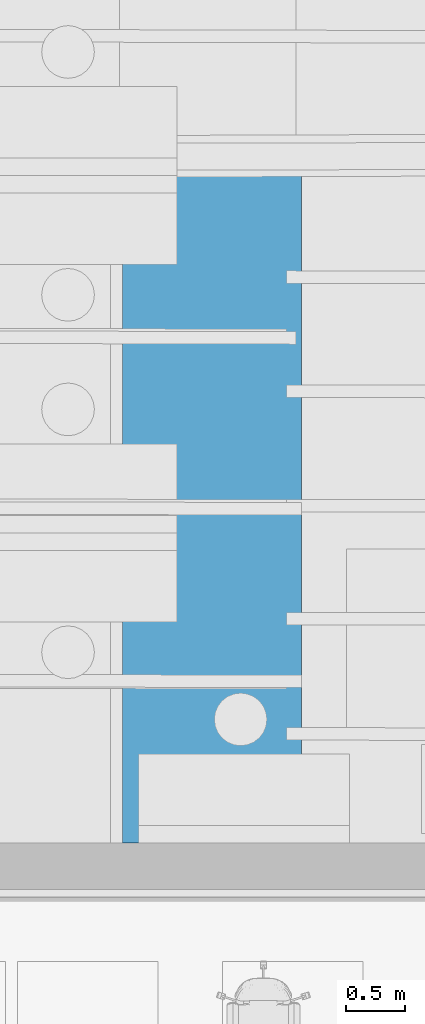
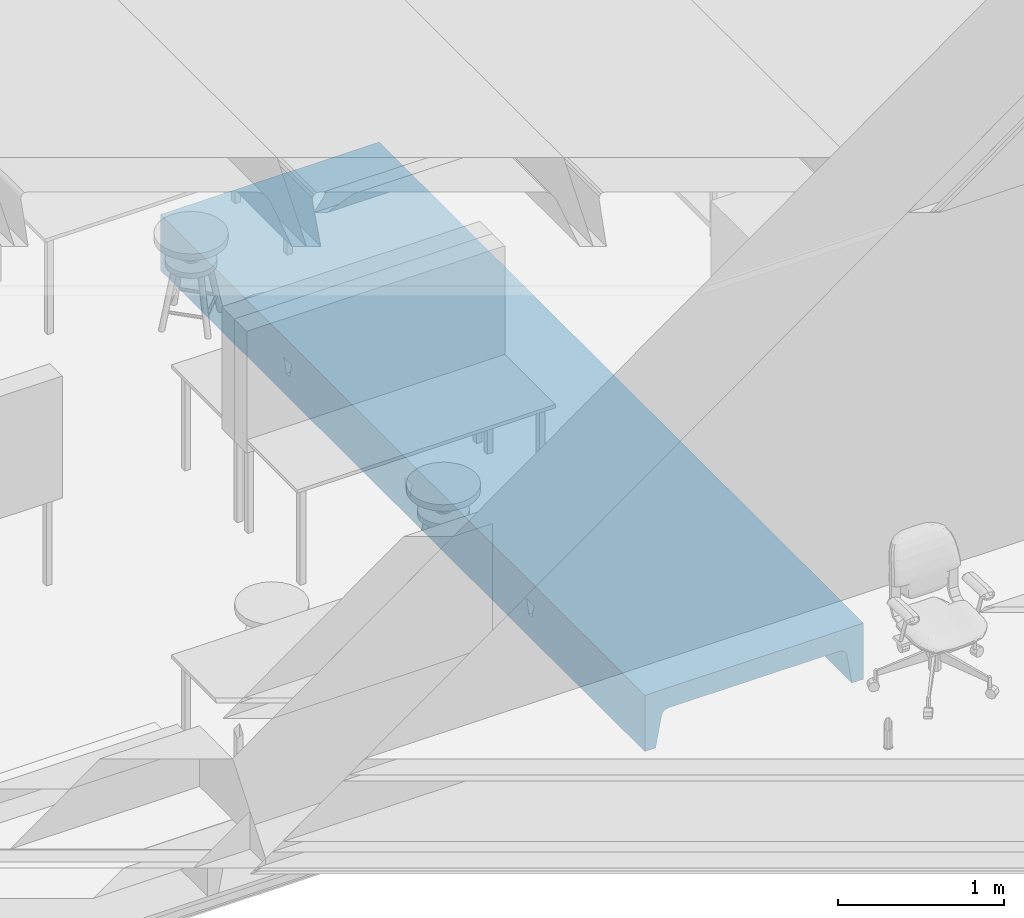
# One storey, part 18 of 153: 1 beam.
"""IFC2X3 building model written with IfcOpenShell, lengths in millimetres."""

import ifcopenshell
import ifcopenshell.guid

model = None  # the IFC model being written
_history = None  # IfcOwnerHistory: only IFC2X3 demands one
_inside = {}  # id of a spatial element -> (the spatial element, [elements in it])
_under = {}  # id of a project, library or spatial element -> (it, [spatial elements below it])
_declared = {}  # id of a project -> (the project, [libraries it declares])
_typed = {}  # id of a type object -> (the type object, [elements of that type])
_made_of = {}  # id of a material, layer set ... -> (it, [elements and type objects made of it])


def new_model(schema):
    """Start an empty IFC model of exactly this schema.

    Asked for "IFC4X3", IfcOpenShell would pick the latest addendum, in which some entities
    have other attributes; the version numbers below select the first issue.
    IFC2X3 requires an IfcOwnerHistory on every rooted entity: one is made here for all.
    """
    global model, _history
    if schema == "IFC4X3":
        model = ifcopenshell.file(schema_version=(4, 3, 0, 0))
    else:
        model = ifcopenshell.file(schema=schema)
    _inside.clear()
    _under.clear()
    _declared.clear()
    _typed.clear()
    _made_of.clear()
    _history = None
    if model.schema == "IFC2X3":
        org = make("IfcOrganization", Name="unknown")
        user = make(
            "IfcPersonAndOrganization",
            ThePerson=make("IfcPerson", FamilyName="unknown"),
            TheOrganization=org,
        )
        app = make(
            "IfcApplication",
            ApplicationDeveloper=org,
            Version="unknown",
            ApplicationFullName="unknown",
            ApplicationIdentifier="unknown",
        )
        _history = make(
            "IfcOwnerHistory",
            OwningUser=user,
            OwningApplication=app,
            ChangeAction="ADDED",
            CreationDate=0,
        )
    return model


def make(cls, **values):
    """One entity of the class cls with the attributes given. An attribute that is None is left unset."""
    return model.create_entity(
        cls, **{name: value for name, value in values.items() if value is not None}
    )


def entity(cls, *values):
    """Any entity or typed value of the class cls, its attributes in the order of the schema. None: left unset."""
    e = model.create_entity(cls)
    for i, value in enumerate(values):
        if value is not None:
            e[i] = value
    return e


def rooted(cls, **values):
    """An entity with a GlobalId (a new one), such as an element, a storey or a relation."""
    return make(cls, GlobalId=ifcopenshell.guid.new(), OwnerHistory=_history, **values)


def si_unit(unit_type, name, prefix=None):
    """IfcSIUnit, for example si_unit("LENGTHUNIT", "METRE", prefix="MILLI")."""
    return make("IfcSIUnit", UnitType=unit_type, Prefix=prefix, Name=name)


def converted_unit(unit_type, name, factor, base, dimensions=None, offset=None):
    """IfcConversionBasedUnit, such as the inch: factor (a typed value) times the base unit."""
    return make(
        "IfcConversionBasedUnit"
        if offset is None
        else "IfcConversionBasedUnitWithOffset",
        ConversionOffset=offset,
        Dimensions=None
        if dimensions is None
        else entity("IfcDimensionalExponents", *dimensions),
        UnitType=unit_type,
        Name=name,
        ConversionFactor=make(
            "IfcMeasureWithUnit", ValueComponent=factor, UnitComponent=base
        ),
    )


def derived_unit(unit_type, elements):
    """IfcDerivedUnit: a product of units, each with its exponent."""
    return make(
        "IfcDerivedUnit",
        Elements=[
            make("IfcDerivedUnitElement", Unit=unit, Exponent=power)
            for unit, power in elements
        ],
        UnitType=unit_type,
    )


def money_unit(currency):
    """IfcMonetaryUnit."""
    return make("IfcMonetaryUnit", Currency=currency)


def assignment(units):
    """IfcUnitAssignment: the units of a project."""
    return None if units is None else make("IfcUnitAssignment", Units=units)


def point(xyz):
    """IfcCartesianPoint."""
    return None if xyz is None else make("IfcCartesianPoint", Coordinates=xyz)


def direction(xyz):
    """IfcDirection."""
    return None if xyz is None else make("IfcDirection", DirectionRatios=xyz)


def frame(location, z_axis=None, x_axis=None):
    """IfcAxis2Placement3D, a coordinate frame: its origin and axes. An axis left out is left unset."""
    return make(
        "IfcAxis2Placement3D",
        Location=point(location),
        Axis=direction(z_axis),
        RefDirection=direction(x_axis),
    )


def origin_with_axes():
    """The frame at (0, 0, 0) with the z axis (0, 0, 1) and the x axis (1, 0, 0) written out."""
    return frame((0.0, 0.0, 0.0), z_axis=(0.0, 0.0, 1.0), x_axis=(1.0, 0.0, 0.0))


def place(relative_to, where):
    """IfcLocalPlacement: puts the frame where relative to a parent placement (None: the world)."""
    return make(
        "IfcLocalPlacement", PlacementRelTo=relative_to, RelativePlacement=where
    )


def context(
    kind, dimensions, precision=None, world=None, true_north=None, identifier=None
):
    """IfcGeometricRepresentationContext, for example the 3D "Model" context."""
    return make(
        "IfcGeometricRepresentationContext",
        ContextIdentifier=identifier,
        ContextType=kind,
        CoordinateSpaceDimension=dimensions,
        Precision=precision,
        WorldCoordinateSystem=world,
        TrueNorth=true_north,
    )


def subcontext(parent, identifier, kind, view, scale=None):
    """IfcGeometricRepresentationSubContext, for example "Body" below "Model"."""
    return make(
        "IfcGeometricRepresentationSubContext",
        ContextIdentifier=identifier,
        ContextType=kind,
        ParentContext=parent,
        TargetScale=scale,
        TargetView=view,
    )


def project(units=None, contexts=None):
    """IfcProject with its units and contexts."""
    return rooted(
        "IfcProject",
        Name="project",
        RepresentationContexts=contexts,
        UnitsInContext=assignment(units),
    )


def spatial(cls, under=None, at=None, **own):
    """A site, building, storey or space (cls), placed at a placement, below another one or the project."""
    s = rooted(cls, ObjectPlacement=at, **own)
    if under is not None:
        _under.setdefault(under.id(), (under, []))[1].append(s)
    return s


def faces_of(points, faces, orient=None, outer=None):
    """IfcFace entities. A face is a list of loops; a loop is a list of indices into points, from 0.

    orient and outer hold one flag for each loop. By default every Orientation is true, the
    first loop of a face is its IfcFaceOuterBound and the others are IfcFaceBound.
    """
    made = []
    for i, loops in enumerate(faces):
        bounds = []
        for j, loop in enumerate(loops):
            is_outer = j == 0 if outer is None else outer[i][j]
            bounds.append(
                make(
                    "IfcFaceOuterBound" if is_outer else "IfcFaceBound",
                    Bound=make("IfcPolyLoop", Polygon=[points[k] for k in loop]),
                    Orientation=True if orient is None else orient[i][j],
                )
            )
        made.append(make("IfcFace", Bounds=bounds))
    return made


def faceted_brep(points, faces, orient=None, outer=None, voids=None):
    """IfcFacetedBrep: a solid bounded by flat faces; with voids (closed shells), ...WithVoids."""
    shared = [point(p) for p in points]
    hull = make("IfcClosedShell", CfsFaces=faces_of(shared, faces, orient, outer))
    if voids is None:
        return make("IfcFacetedBrep", Outer=hull)
    return make(
        "IfcFacetedBrepWithVoids",
        Outer=hull,
        Voids=[
            make(cls, CfsFaces=faces_of(shared, fs, o, b)) for cls, fs, o, b in voids
        ],
    )


def shape(context_of_items, identifier, shape_type, items):
    """IfcShapeRepresentation: the items that make up one representation, for example the "Body"."""
    return make(
        "IfcShapeRepresentation",
        ContextOfItems=context_of_items,
        RepresentationIdentifier=identifier,
        RepresentationType=shape_type,
        Items=items,
    )


def material(Name=None, Category=None):
    """IfcMaterial."""
    return make("IfcMaterial", Name=Name, Category=Category)


def made_of(thing, what):
    """Note that an element or type object is made of a material, layer set ...; save() writes the relation."""
    if what is not None:
        _made_of.setdefault(what.id(), (what, []))[1].append(thing)
    return thing


def type_object(cls, material=None, **own):
    """A type object (cls), such as IfcWallType, which elements share."""
    return made_of(rooted(cls, **own), material)


def element(
    cls,
    number,
    at=None,
    inside=None,
    cuts=None,
    type_object=None,
    material=None,
    context=None,
    identifier="Body",
    shape_type=None,
    held_by="IfcProductDefinitionShape",
    body=None,
    shapes=None,
    **own,
):
    """One element of the class cls, such as IfcWall. Its Tag is "e" and its number.

    at: its placement. inside: the storey or other place that contains it. cuts: it is an
    opening in that element (IfcRelVoidsElement). A single representation is given by context,
    identifier, shape_type and body (its items); several are given by shapes. held_by: the class
    of the entity that holds the representations. save() writes the other relations.
    """
    e = rooted(cls, Tag="e%d" % number, ObjectPlacement=at, **own)
    if body is not None:
        shapes = [shape(context, identifier, shape_type, body)]
    if shapes is not None:
        e.Representation = make(held_by, Representations=shapes)
    if inside is not None:
        _inside.setdefault(inside.id(), (inside, []))[1].append(e)
    if cuts is not None:
        rooted(
            "IfcRelVoidsElement", RelatingBuildingElement=cuts, RelatedOpeningElement=e
        )
    if type_object is not None:
        _typed.setdefault(type_object.id(), (type_object, []))[1].append(e)
    return made_of(e, material)


def aggregate(whole, parts):
    """IfcRelAggregates: a whole, such as a stair, and the parts it consists of."""
    return rooted("IfcRelAggregates", RelatingObject=whole, RelatedObjects=parts)


def save(model, path):
    """Write the relations noted so far, then the file.

    IfcRelAggregates (storeys below a building ...), IfcRelContainedInSpatialStructure (elements
    in a storey), IfcRelDefinesByType, IfcRelAssociatesMaterial and IfcRelDeclares: one each for
    every whole, place, type object, material and project.
    """
    for whole, parts in _under.values():
        aggregate(whole, parts)
    for where, things in _inside.values():
        rooted(
            "IfcRelContainedInSpatialStructure",
            RelatedElements=things,
            RelatingStructure=where,
        )
    for kind, things in _typed.values():
        rooted("IfcRelDefinesByType", RelatedObjects=things, RelatingType=kind)
    for what, things in _made_of.values():
        rooted("IfcRelAssociatesMaterial", RelatedObjects=things, RelatingMaterial=what)
    for by, libraries in _declared.values():
        rooted("IfcRelDeclares", RelatingContext=by, RelatedDefinitions=libraries)
    model.write(path)


model = new_model("IFC2X3")

# Units and contexts
model_context = context("Model", 3, precision=0.01, world=origin_with_axes(), true_north=direction((0.0, 1.0)))
body_context = subcontext(model_context, "Body", "Model", "MODEL_VIEW")
ifc_project = project(units=[si_unit("LENGTHUNIT", "METRE", prefix="MILLI"), si_unit("AREAUNIT", "SQUARE_METRE"), si_unit("VOLUMEUNIT", "CUBIC_METRE"), converted_unit("PLANEANGLEUNIT", "DEGREE", entity("IfcPlaneAngleMeasure", 0.0174532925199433), si_unit("PLANEANGLEUNIT", "RADIAN"), dimensions=[0, 0, 0, 0, 0, 0, 0]), money_unit("EUR"), converted_unit("TIMEUNIT", "Year", entity("IfcTimeMeasure", 31557600.0), si_unit("TIMEUNIT", "SECOND"), dimensions=[0, 0, 1, 0, 0, 0, 0]), si_unit("MASSUNIT", "GRAM", prefix="KILO"), si_unit("THERMODYNAMICTEMPERATUREUNIT", "DEGREE_CELSIUS"), si_unit("LUMINOUSINTENSITYUNIT", "LUMEN"), si_unit("ENERGYUNIT", "JOULE", prefix="MEGA"), derived_unit("THERMALCONDUCTANCEUNIT", [(si_unit("POWERUNIT", "WATT"), 1), (si_unit("LENGTHUNIT", "METRE"), -1), (si_unit("THERMODYNAMICTEMPERATUREUNIT", "KELVIN"), -1)]), derived_unit("SPECIFICHEATCAPACITYUNIT", [(si_unit("ENERGYUNIT", "JOULE"), 1), (si_unit("MASSUNIT", "GRAM", prefix="KILO"), -1), (si_unit("THERMODYNAMICTEMPERATUREUNIT", "KELVIN"), -1)]), derived_unit("MASSDENSITYUNIT", [(si_unit("MASSUNIT", "GRAM", prefix="KILO"), 1), (si_unit("VOLUMEUNIT", "CUBIC_METRE"), -1)])], contexts=[model_context])

# Site, building, storey
site_placement = place(None, frame((0.0, 0.0, 8650.0), z_axis=(0.0, 0.0, 1.0), x_axis=(1.0, 0.0, 0.0)))
site = spatial("IfcSite", under=ifc_project, at=site_placement, Name="43301:001:0844", CompositionType="ELEMENT")
building_placement = place(site_placement, origin_with_axes())
building = spatial("IfcBuilding", under=site, at=building_placement, Name="Kuressaare Ametikooli tuulikute mehaanikute õppekorpus", CompositionType="ELEMENT")
storey_placement = place(building_placement, frame((0.0, 0.0, 4100.0), z_axis=(0.0, 0.0, 1.0), x_axis=(1.0, 0.0, 0.0)))
storey = spatial("IfcBuildingStorey", under=building, at=storey_placement, Name="2.korrus", CompositionType="ELEMENT", Elevation=4100.0)

# Beam
ifc_material = material(Name="GENEERILINE - KONSTRUKTRIOON")
beam_type = type_object("IfcBeamType", Name="Precast Double Tee 3 1525 x 415", PredefinedType="NOTDEFINED")
beam_placement = place(storey_placement, frame((93630.25241851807, 32034.33665916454, -539.9999999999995), z_axis=(0.0, 0.0, 1.0), x_axis=(-1.0, 0.0, 0.0)))
element("IfcBeam", 1, at=beam_placement, inside=storey, type_object=beam_type, material=ifc_material, context=body_context, shape_type="Brep", body=[
    faceted_brep([(762.5000000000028, 5851.267735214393, -415.0001340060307), (762.5000000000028, 5851.267735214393, 0.0), (762.5000000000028, 0.0, 0.0), (762.5000000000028, 0.0, -415.0001340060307), (762.5000000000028, 4510.168444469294, -164.3701977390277), (762.5000000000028, 4489.4284126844, -251.9474782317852), (762.5000000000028, 4449.428269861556, -251.9474782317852), (762.5000000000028, 4428.687276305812, -164.370002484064), (762.5000000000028, 4424.11262620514, -155.5742597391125), (762.5000000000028, 4415.91381696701, -149.9999999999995), (762.5000000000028, 4522.941950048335, -149.9999999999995), (762.5000000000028, 4514.743074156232, -155.574334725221), (762.5000000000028, 3016.941695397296, -251.9474782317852), (762.5000000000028, 2976.941552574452, -251.9474782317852), (762.5000000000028, 2956.200559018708, -164.370002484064), (762.5000000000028, 2951.625908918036, -155.5742597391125), (762.5000000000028, 2943.427099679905, -149.9999999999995), (762.5000000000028, 3050.45523276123, -149.9999999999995), (762.5000000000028, 3042.256356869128, -155.574334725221), (762.5000000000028, 3037.681727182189, -164.3701977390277), (762.5000000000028, 1519.280004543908, -251.9474782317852), (762.5000000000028, 1498.539010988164, -164.370002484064), (762.5000000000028, 1493.964360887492, -155.5742597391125), (762.5000000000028, 1485.765551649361, -149.9999999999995), (762.5000000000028, 1592.793684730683, -149.9999999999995), (762.5000000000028, 1584.594808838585, -155.574334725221), (762.5000000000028, 1580.020179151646, -164.3701977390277), (762.5000000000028, 1559.280147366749, -251.9474782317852), (-630.3742921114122, 5851.267735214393, -164.5802967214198), (-642.2018747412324, 5851.267735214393, -180.3584478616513), (-647.7450826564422, 5851.267735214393, -199.2823642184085), (-682.2510280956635, 5851.267735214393, -415.0001340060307), (-762.5000000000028, 5851.267735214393, -415.0001340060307), (-762.5000000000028, 5851.267735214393, 0.0), (686.7096088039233, 5851.267735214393, -415.0001340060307), (644.8621749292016, 5851.267735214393, -188.8133237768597), (639.0698943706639, 5851.267735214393, -173.3049793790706), (628.3234422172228, 5851.267735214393, -160.712401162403), (613.9186038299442, 5851.267735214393, -152.5539766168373), (597.5922853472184, 5851.267735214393, -149.8134319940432), (596.1468073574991, 5851.267735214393, -149.8234995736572), (-594.4825828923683, 5851.267735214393, -149.8234995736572), (-613.7646293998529, 5851.267735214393, -153.9519916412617), (-762.5000000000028, 0.0, 0.0), (686.7096088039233, 0.0, -415.0001340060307), (-762.5000000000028, 0.0, -415.0001340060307), (-682.2510280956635, 0.0, -415.0001340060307), (-647.7450826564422, 0.0, -199.2823642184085), (-642.2018747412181, 0.0, -180.3584478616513), (-630.3742921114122, 0.0, -164.5802967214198), (-613.7646293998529, 0.0, -153.9519916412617), (-594.4825828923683, 0.0, -149.8234995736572), (596.1468073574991, 0.0, -149.8234995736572), (597.5922853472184, 0.0, -149.8134319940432), (613.9186038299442, 0.0, -152.5539766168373), (628.3234422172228, 0.0, -160.712401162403), (639.0698943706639, 0.0, -173.3049793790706), (644.8621749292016, 0.0, -188.8133237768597), (656.5427957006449, 4489.711561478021, -251.9474782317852), (631.4449901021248, 4510.518661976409, -164.3701977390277), (639.0698943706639, 4508.382353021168, -173.3049793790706), (644.8621749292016, 4504.694191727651, -188.8133237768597), (656.5427957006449, 4449.711418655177, -251.9474782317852), (644.8621749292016, 4434.790556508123, -188.8133237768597), (639.0698943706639, 4431.133190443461, -173.3049793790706), (631.4448234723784, 4429.03749425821, -164.370002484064), (628.3234422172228, 4427.143523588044, -160.712401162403), (619.2513356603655, 4424.495428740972, -155.5742597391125), (613.9186038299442, 4420.067345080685, -152.5539766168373), (598.7037318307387, 4416.351528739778, -149.9999999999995), (598.7037318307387, 4523.379661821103, -149.9999999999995), (619.2514680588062, 4515.125876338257, -155.574334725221), (613.9186038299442, 4519.582548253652, -152.5539766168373), (628.3234422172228, 4512.429382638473, -160.712401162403), (656.5427957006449, 3017.224844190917, -251.9474782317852), (656.5427957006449, 2977.224701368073, -251.9474782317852), (644.8621749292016, 2962.303839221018, -188.8133237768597), (639.0698943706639, 2958.646473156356, -173.3049793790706), (631.4448234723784, 2956.550776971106, -164.370002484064), (628.3234422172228, 2954.656806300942, -160.712401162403), (619.2513356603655, 2952.008711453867, -155.5742597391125), (613.9186038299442, 2947.580627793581, -152.5539766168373), (598.7037318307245, 2943.864811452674, -149.9999999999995), (598.7037318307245, 3050.892944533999, -149.9999999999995), (613.9186038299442, 3047.095830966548, -152.5539766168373), (619.2514680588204, 3042.639159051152, -155.574334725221), (628.3234422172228, 3039.942665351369, -160.712401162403), (631.4449901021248, 3038.031944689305, -164.3701977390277), (639.0698943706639, 3035.895635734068, -173.3049793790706), (644.8621749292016, 3032.207474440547, -188.8133237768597), (644.8621749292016, 1504.642291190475, -188.8133237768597), (639.0698943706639, 1500.98492512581, -173.3049793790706), (631.4448234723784, 1498.889228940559, -164.370002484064), (656.5427957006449, 1519.563153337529, -251.9474782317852), (628.3234422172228, 1496.995258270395, -160.712401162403), (619.2513356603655, 1494.347163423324, -155.5742597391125), (613.9186038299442, 1489.919079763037, -152.5539766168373), (598.7037318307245, 1486.20326342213, -149.9999999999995), (598.7037318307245, 1593.231396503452, -149.9999999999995), (613.9186038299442, 1589.434282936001, -152.5539766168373), (619.2514680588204, 1584.977611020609, -155.574334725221), (628.3234422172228, 1582.281117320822, -160.712401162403), (631.4449901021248, 1580.370396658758, -164.3701977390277), (639.0698943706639, 1578.234087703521, -173.3049793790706), (644.8621749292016, 1574.54592641, -188.8133237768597), (656.5427957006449, 1559.56329616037, -251.9474782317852), (-642.2018747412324, 4510.135886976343, -180.3584478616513), (-630.3742921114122, 4513.840858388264, -164.5802967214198), (-647.7450826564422, 4505.66914246, -199.2823642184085), (-647.7450826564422, 2968.237450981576, -199.2823642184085), (-647.7450826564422, 1575.520877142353, -199.2823642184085), (-656.169328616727, 1563.071248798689, -251.9474782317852), (-656.169328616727, 1523.071105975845, -251.9474782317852), (-647.7450826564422, 1510.575902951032, -199.2823642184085), (-656.1693286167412, 4493.219514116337, -251.9474782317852), (-656.1693286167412, 4453.219371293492, -251.9474782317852), (-647.7450826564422, 4440.72416826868, -199.2823642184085), (-647.7450826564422, 3033.182425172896, -199.2823642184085), (-656.169328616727, 3020.732796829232, -251.9474782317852), (-656.169328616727, 2980.732654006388, -251.9474782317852), (-762.5000000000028, 4428.187874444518, -155.5742597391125), (-762.5000000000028, 4432.76252454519, -164.370002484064), (-762.5000000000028, 4453.503518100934, -251.9474782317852), (-762.5000000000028, 4473.503131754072, -251.9474782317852), (-762.5000000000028, 4473.503131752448, -149.9999999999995), (-762.5000000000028, 4419.989065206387, -149.9999999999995), (-762.5000000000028, 2960.275807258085, -164.370002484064), (-762.5000000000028, 2981.01680081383, -251.9474782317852), (-762.5000000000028, 3001.0164144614, -251.9474782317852), (-762.5000000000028, 3001.016414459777, -149.9999999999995), (-762.5000000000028, 2947.502347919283, -149.9999999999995), (-762.5000000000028, 2955.701157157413, -155.5742597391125), (-595.3069248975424, 1489.394010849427, -149.9999999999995), (-595.3069248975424, 1596.422143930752, -149.9999999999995), (-613.7646293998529, 1590.658776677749, -153.9519916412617), (-613.7646293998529, 2952.917605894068, -153.9519916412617), (-595.3069248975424, 2947.055558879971, -149.9999999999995), (-595.3069248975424, 3054.083691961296, -149.9999999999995), (-613.7646293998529, 3048.320324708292, -153.9519916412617), (-613.7646293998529, 4425.404323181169, -153.9519916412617), (-595.3069248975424, 4419.542276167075, -149.9999999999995), (-595.3069248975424, 4526.5704092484, -149.9999999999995), (-613.7646293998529, 4520.807041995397, -153.9519916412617), (-613.7646293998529, 1495.256057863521, -153.9519916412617), (-616.2999886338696, 4518.427632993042, -155.574334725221), (-630.0459544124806, 4513.889736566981, -164.3701977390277), (-642.2018747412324, 1506.0793344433, -180.3584478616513), (-630.3742921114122, 1502.310984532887, -164.5802967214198), (-630.0456492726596, 1502.260302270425, -164.370002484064), (-616.2998714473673, 1497.648919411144, -155.5742597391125), (-762.3911300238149, 4514.243401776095, -164.3701977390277), (-762.4465530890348, 4493.50351809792, -251.9474782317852), (-642.2018747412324, 2963.740882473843, -180.3584478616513), (-642.2018747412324, 1579.987621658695, -180.3584478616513), (-717.4465530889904, 1563.234999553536, -251.9474782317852), (-630.3742921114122, 1583.692593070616, -164.5802967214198), (-630.0459544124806, 1583.741471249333, -164.3701977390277), (-717.3911300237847, 1583.974883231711, -164.3701977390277), (-717.5534444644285, 1523.235142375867, -251.9474782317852), (-717.6088700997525, 1502.494296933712, -164.370002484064), (-642.2018747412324, 4436.227599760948, -180.3584478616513), (-630.0456492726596, 4432.408567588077, -164.370002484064), (-630.3742921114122, 4432.459249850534, -164.5802967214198), (-642.2018747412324, 3037.649169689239, -180.3584478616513), (-762.3911300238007, 3041.756684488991, -164.3701977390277), (-762.4465530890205, 3021.016800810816, -251.9474782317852), (-630.3742921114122, 3041.354141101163, -164.5802967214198), (-630.0459544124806, 3041.403019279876, -164.3701977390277), (-630.0456492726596, 2959.921850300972, -164.370002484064), (-630.3742921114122, 2959.97253256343, -164.5802967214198), (-616.2998714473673, 4427.797184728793, -155.5742597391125), (-762.3789053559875, 4518.817998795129, -155.574334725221), (-762.3569957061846, 4527.016816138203, -149.9999999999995), (-762.3789053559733, 3046.331281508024, -155.574334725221), (-762.3569957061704, 3054.530098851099, -149.9999999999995), (-616.2998714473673, 2955.310467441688, -155.5742597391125), (-717.3569957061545, 1596.74829759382, -149.9999999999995), (-717.6430042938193, 1489.720928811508, -149.9999999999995), (-717.3789053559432, 1588.549480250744, -155.574334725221), (-616.2999886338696, 1588.279367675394, -155.574334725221), (-616.2999886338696, 3045.940915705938, -155.574334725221), (-717.6210948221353, 1497.919679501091, -155.5742597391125)], [[[0, 1, 2, 3], [4, 5, 6, 7, 8, 9, 10, 11], [12, 13, 14, 15, 16, 17, 18, 19], [20, 21, 22, 23, 24, 25, 26, 27]], [[28, 29, 30, 31, 32, 33, 1, 0, 34, 35, 36, 37, 38, 39, 40, 41, 42]], [[1, 33, 43, 2]], [[44, 3, 2, 43, 45, 46, 47, 48, 49, 50, 51, 52, 53, 54, 55, 56, 57]], [[34, 0, 3, 44]], [[58, 5, 4, 59, 60, 61]], [[62, 6, 5, 58]], [[6, 62, 63, 64, 65, 7]], [[8, 7, 65, 66, 67]], [[9, 8, 67, 68, 69]], [[70, 10, 9, 69]], [[71, 11, 10, 70, 72]], [[59, 4, 11, 71, 73]], [[13, 12, 74, 75]], [[75, 76, 77, 78, 14, 13]], [[14, 78, 79, 80, 15]], [[15, 80, 81, 82, 16]], [[17, 16, 82, 83]], [[18, 17, 83, 84, 85]], [[19, 18, 85, 86, 87]], [[12, 19, 87, 88, 89, 74]], [[90, 91, 92, 21, 20, 93]], [[92, 94, 95, 22, 21]], [[95, 96, 97, 23, 22]], [[23, 97, 98, 24]], [[24, 98, 99, 100, 25]], [[25, 100, 101, 102, 26]], [[26, 102, 103, 104, 105, 27]], [[27, 105, 93, 20]], [[106, 29, 28, 107]], [[108, 30, 29, 106]], [[109, 110, 111, 112, 113, 47, 46, 31, 30, 108, 114, 115, 116, 117, 118, 119]], [[32, 31, 46, 45]], [[33, 32, 45, 43], [120, 121, 122, 123, 124, 125], [126, 127, 128, 129, 130, 131]], [[93, 105, 104, 76, 75, 74, 89, 63, 62, 58, 61, 35, 34, 44, 57, 90]], [[60, 36, 35, 61]], [[37, 36, 60, 59, 73]], [[38, 37, 73, 71, 72]], [[81, 99, 98, 97, 96, 54, 53, 39, 38, 72, 70, 69, 68, 84, 83, 82]], [[40, 39, 53, 52]], [[41, 40, 52, 51]], [[132, 133, 134, 135, 136, 137, 138, 139, 140, 141, 142, 42, 41, 51, 50, 143]], [[42, 142, 144, 145, 107, 28]], [[47, 113, 146, 48]], [[48, 146, 147, 49]], [[148, 149, 143, 50, 49, 147]], [[96, 95, 94, 55, 54]], [[94, 92, 91, 56, 55]], [[56, 91, 90, 57]], [[64, 63, 89, 88]], [[64, 88, 87, 86, 66, 65]], [[66, 86, 85, 84, 68, 67]], [[76, 104, 103, 77]], [[103, 102, 101, 79, 78, 77]], [[101, 100, 99, 81, 80, 79]], [[145, 150, 151, 114, 108, 106, 107]], [[152, 153, 110, 109]], [[154, 111, 110, 153, 155, 156, 157]], [[158, 112, 111, 154]], [[146, 113, 112, 158, 159, 148, 147]], [[115, 114, 151, 123, 122]], [[160, 116, 115, 122, 121, 161, 162]], [[116, 160, 163, 117]], [[164, 165, 118, 117, 163, 166, 167]], [[118, 165, 128, 127, 119]], [[109, 119, 127, 126, 168, 169, 152]], [[120, 170, 161, 121]], [[150, 171, 172, 124, 123, 151]], [[172, 141, 140, 125, 124]], [[140, 139, 170, 120, 125]], [[173, 174, 129, 128, 165, 164]], [[137, 136, 130, 129, 174]], [[135, 175, 131, 130, 136]], [[175, 168, 126, 131]], [[176, 133, 132, 177]], [[178, 179, 134, 133, 176]], [[179, 156, 155, 169, 168, 175, 135, 134]], [[174, 173, 180, 138, 137]], [[138, 180, 167, 166, 162, 161, 170, 139]], [[141, 172, 171, 144, 142]], [[132, 143, 149, 181, 177]], [[144, 171, 150, 145]], [[181, 149, 148, 159]], [[169, 155, 153, 152]], [[157, 156, 179, 178]], [[157, 178, 176, 177, 181, 159, 158, 154]], [[160, 162, 166, 163]], [[173, 164, 167, 180]]]),
])

save(model, "model.ifc")
